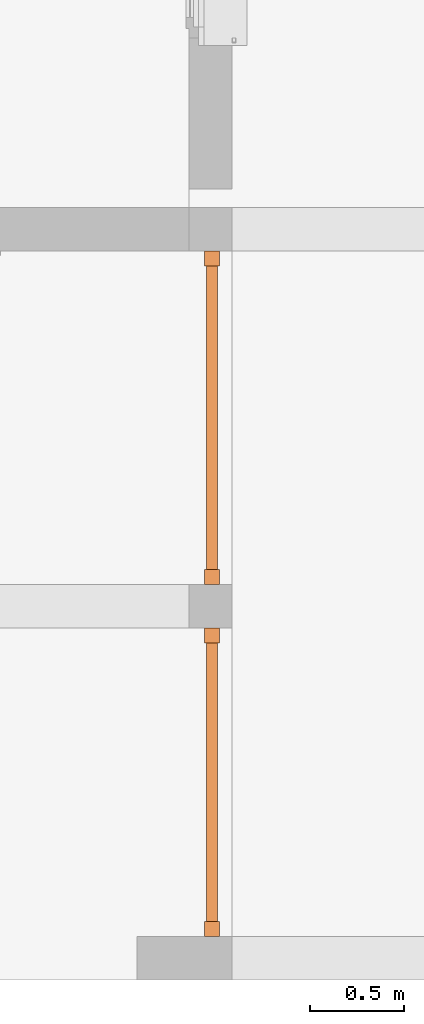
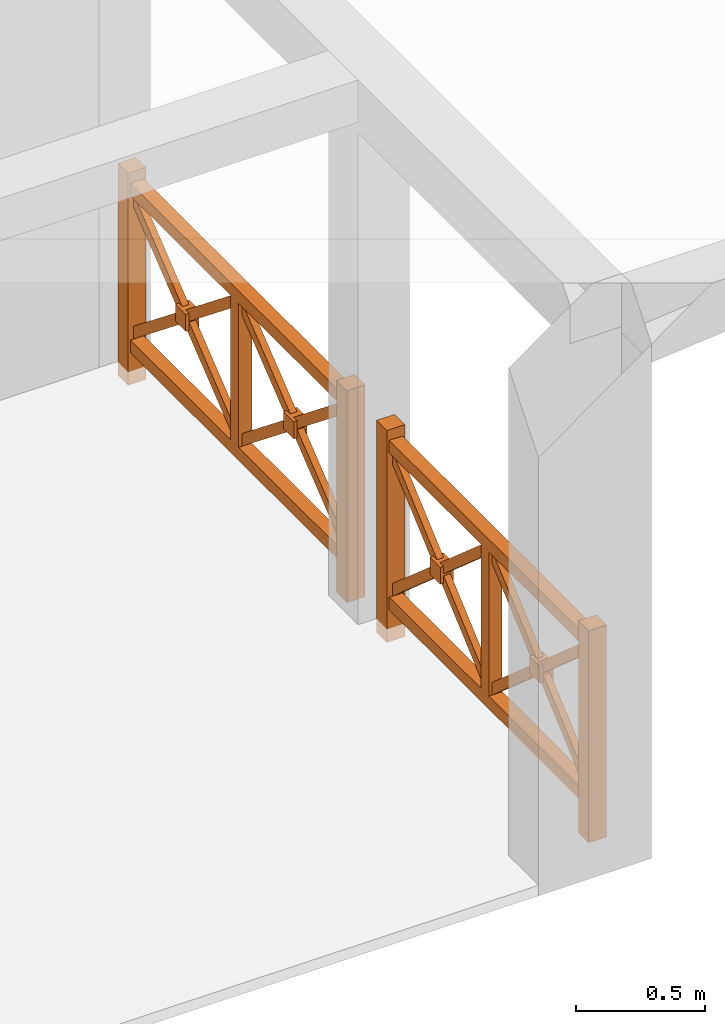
# One storey, part 11 of 13: 2 proxies.
"""IFC2X3 building model written with IfcOpenShell, lengths in metres."""

import ifcopenshell
import ifcopenshell.guid

model = None  # the IFC model being written
_history = None  # IfcOwnerHistory: only IFC2X3 demands one
_inside = {}  # id of a spatial element -> (the spatial element, [elements in it])
_under = {}  # id of a project, library or spatial element -> (it, [spatial elements below it])
_declared = {}  # id of a project -> (the project, [libraries it declares])
_typed = {}  # id of a type object -> (the type object, [elements of that type])
_made_of = {}  # id of a material, layer set ... -> (it, [elements and type objects made of it])


def new_model(schema):
    """Start an empty IFC model of exactly this schema.

    Asked for "IFC4X3", IfcOpenShell would pick the latest addendum, in which some entities
    have other attributes; the version numbers below select the first issue.
    IFC2X3 requires an IfcOwnerHistory on every rooted entity: one is made here for all.
    """
    global model, _history
    if schema == "IFC4X3":
        model = ifcopenshell.file(schema_version=(4, 3, 0, 0))
    else:
        model = ifcopenshell.file(schema=schema)
    _inside.clear()
    _under.clear()
    _declared.clear()
    _typed.clear()
    _made_of.clear()
    _history = None
    if model.schema == "IFC2X3":
        org = make("IfcOrganization", Name="unknown")
        user = make(
            "IfcPersonAndOrganization",
            ThePerson=make("IfcPerson", FamilyName="unknown"),
            TheOrganization=org,
        )
        app = make(
            "IfcApplication",
            ApplicationDeveloper=org,
            Version="unknown",
            ApplicationFullName="unknown",
            ApplicationIdentifier="unknown",
        )
        _history = make(
            "IfcOwnerHistory",
            OwningUser=user,
            OwningApplication=app,
            ChangeAction="ADDED",
            CreationDate=0,
        )
    return model


def make(cls, **values):
    """One entity of the class cls with the attributes given. An attribute that is None is left unset."""
    return model.create_entity(
        cls, **{name: value for name, value in values.items() if value is not None}
    )


def entity(cls, *values):
    """Any entity or typed value of the class cls, its attributes in the order of the schema. None: left unset."""
    e = model.create_entity(cls)
    for i, value in enumerate(values):
        if value is not None:
            e[i] = value
    return e


def rooted(cls, **values):
    """An entity with a GlobalId (a new one), such as an element, a storey or a relation."""
    return make(cls, GlobalId=ifcopenshell.guid.new(), OwnerHistory=_history, **values)


def si_unit(unit_type, name, prefix=None):
    """IfcSIUnit, for example si_unit("LENGTHUNIT", "METRE", prefix="MILLI")."""
    return make("IfcSIUnit", UnitType=unit_type, Prefix=prefix, Name=name)


def converted_unit(unit_type, name, factor, base, dimensions=None, offset=None):
    """IfcConversionBasedUnit, such as the inch: factor (a typed value) times the base unit."""
    return make(
        "IfcConversionBasedUnit"
        if offset is None
        else "IfcConversionBasedUnitWithOffset",
        ConversionOffset=offset,
        Dimensions=None
        if dimensions is None
        else entity("IfcDimensionalExponents", *dimensions),
        UnitType=unit_type,
        Name=name,
        ConversionFactor=make(
            "IfcMeasureWithUnit", ValueComponent=factor, UnitComponent=base
        ),
    )


def derived_unit(unit_type, elements):
    """IfcDerivedUnit: a product of units, each with its exponent."""
    return make(
        "IfcDerivedUnit",
        Elements=[
            make("IfcDerivedUnitElement", Unit=unit, Exponent=power)
            for unit, power in elements
        ],
        UnitType=unit_type,
    )


def money_unit(currency):
    """IfcMonetaryUnit."""
    return make("IfcMonetaryUnit", Currency=currency)


def assignment(units):
    """IfcUnitAssignment: the units of a project."""
    return None if units is None else make("IfcUnitAssignment", Units=units)


def point(xyz):
    """IfcCartesianPoint."""
    return None if xyz is None else make("IfcCartesianPoint", Coordinates=xyz)


def direction(xyz):
    """IfcDirection."""
    return None if xyz is None else make("IfcDirection", DirectionRatios=xyz)


def frame(location, z_axis=None, x_axis=None):
    """IfcAxis2Placement3D, a coordinate frame: its origin and axes. An axis left out is left unset."""
    return make(
        "IfcAxis2Placement3D",
        Location=point(location),
        Axis=direction(z_axis),
        RefDirection=direction(x_axis),
    )


def origin_with_axes():
    """The frame at (0, 0, 0) with the z axis (0, 0, 1) and the x axis (1, 0, 0) written out."""
    return frame((0.0, 0.0, 0.0), z_axis=(0.0, 0.0, 1.0), x_axis=(1.0, 0.0, 0.0))


def place(relative_to, where):
    """IfcLocalPlacement: puts the frame where relative to a parent placement (None: the world)."""
    return make(
        "IfcLocalPlacement", PlacementRelTo=relative_to, RelativePlacement=where
    )


def context(
    kind, dimensions, precision=None, world=None, true_north=None, identifier=None
):
    """IfcGeometricRepresentationContext, for example the 3D "Model" context."""
    return make(
        "IfcGeometricRepresentationContext",
        ContextIdentifier=identifier,
        ContextType=kind,
        CoordinateSpaceDimension=dimensions,
        Precision=precision,
        WorldCoordinateSystem=world,
        TrueNorth=true_north,
    )


def subcontext(parent, identifier, kind, view, scale=None):
    """IfcGeometricRepresentationSubContext, for example "Body" below "Model"."""
    return make(
        "IfcGeometricRepresentationSubContext",
        ContextIdentifier=identifier,
        ContextType=kind,
        ParentContext=parent,
        TargetScale=scale,
        TargetView=view,
    )


def project(units=None, contexts=None):
    """IfcProject with its units and contexts."""
    return rooted(
        "IfcProject",
        Name="project",
        RepresentationContexts=contexts,
        UnitsInContext=assignment(units),
    )


def spatial(cls, under=None, at=None, **own):
    """A site, building, storey or space (cls), placed at a placement, below another one or the project."""
    s = rooted(cls, ObjectPlacement=at, **own)
    if under is not None:
        _under.setdefault(under.id(), (under, []))[1].append(s)
    return s


def faces_of(points, faces, orient=None, outer=None):
    """IfcFace entities. A face is a list of loops; a loop is a list of indices into points, from 0.

    orient and outer hold one flag for each loop. By default every Orientation is true, the
    first loop of a face is its IfcFaceOuterBound and the others are IfcFaceBound.
    """
    made = []
    for i, loops in enumerate(faces):
        bounds = []
        for j, loop in enumerate(loops):
            is_outer = j == 0 if outer is None else outer[i][j]
            bounds.append(
                make(
                    "IfcFaceOuterBound" if is_outer else "IfcFaceBound",
                    Bound=make("IfcPolyLoop", Polygon=[points[k] for k in loop]),
                    Orientation=True if orient is None else orient[i][j],
                )
            )
        made.append(make("IfcFace", Bounds=bounds))
    return made


def faceted_brep(points, faces, orient=None, outer=None, voids=None):
    """IfcFacetedBrep: a solid bounded by flat faces; with voids (closed shells), ...WithVoids."""
    shared = [point(p) for p in points]
    hull = make("IfcClosedShell", CfsFaces=faces_of(shared, faces, orient, outer))
    if voids is None:
        return make("IfcFacetedBrep", Outer=hull)
    return make(
        "IfcFacetedBrepWithVoids",
        Outer=hull,
        Voids=[
            make(cls, CfsFaces=faces_of(shared, fs, o, b)) for cls, fs, o, b in voids
        ],
    )


def shape(context_of_items, identifier, shape_type, items):
    """IfcShapeRepresentation: the items that make up one representation, for example the "Body"."""
    return make(
        "IfcShapeRepresentation",
        ContextOfItems=context_of_items,
        RepresentationIdentifier=identifier,
        RepresentationType=shape_type,
        Items=items,
    )


def made_of(thing, what):
    """Note that an element or type object is made of a material, layer set ...; save() writes the relation."""
    if what is not None:
        _made_of.setdefault(what.id(), (what, []))[1].append(thing)
    return thing


def type_object(cls, material=None, **own):
    """A type object (cls), such as IfcWallType, which elements share."""
    return made_of(rooted(cls, **own), material)


def element(
    cls,
    number,
    at=None,
    inside=None,
    cuts=None,
    type_object=None,
    material=None,
    context=None,
    identifier="Body",
    shape_type=None,
    held_by="IfcProductDefinitionShape",
    body=None,
    shapes=None,
    **own,
):
    """One element of the class cls, such as IfcWall. Its Tag is "e" and its number.

    at: its placement. inside: the storey or other place that contains it. cuts: it is an
    opening in that element (IfcRelVoidsElement). A single representation is given by context,
    identifier, shape_type and body (its items); several are given by shapes. held_by: the class
    of the entity that holds the representations. save() writes the other relations.
    """
    e = rooted(cls, Tag="e%d" % number, ObjectPlacement=at, **own)
    if body is not None:
        shapes = [shape(context, identifier, shape_type, body)]
    if shapes is not None:
        e.Representation = make(held_by, Representations=shapes)
    if inside is not None:
        _inside.setdefault(inside.id(), (inside, []))[1].append(e)
    if cuts is not None:
        rooted(
            "IfcRelVoidsElement", RelatingBuildingElement=cuts, RelatedOpeningElement=e
        )
    if type_object is not None:
        _typed.setdefault(type_object.id(), (type_object, []))[1].append(e)
    return made_of(e, material)


def aggregate(whole, parts):
    """IfcRelAggregates: a whole, such as a stair, and the parts it consists of."""
    return rooted("IfcRelAggregates", RelatingObject=whole, RelatedObjects=parts)


def save(model, path):
    """Write the relations noted so far, then the file.

    IfcRelAggregates (storeys below a building ...), IfcRelContainedInSpatialStructure (elements
    in a storey), IfcRelDefinesByType, IfcRelAssociatesMaterial and IfcRelDeclares: one each for
    every whole, place, type object, material and project.
    """
    for whole, parts in _under.values():
        aggregate(whole, parts)
    for where, things in _inside.values():
        rooted(
            "IfcRelContainedInSpatialStructure",
            RelatedElements=things,
            RelatingStructure=where,
        )
    for kind, things in _typed.values():
        rooted("IfcRelDefinesByType", RelatedObjects=things, RelatingType=kind)
    for what, things in _made_of.values():
        rooted("IfcRelAssociatesMaterial", RelatedObjects=things, RelatingMaterial=what)
    for by, libraries in _declared.values():
        rooted("IfcRelDeclares", RelatingContext=by, RelatedDefinitions=libraries)
    model.write(path)


model = new_model("IFC2X3")

# Units and contexts
model_context = context("Model", 3, precision=1e-05, world=origin_with_axes(), true_north=direction((0.0, 1.0)))
body_context = subcontext(model_context, "Body", "Model", "MODEL_VIEW")
ifc_project = project(units=[si_unit("LENGTHUNIT", "METRE"), si_unit("AREAUNIT", "SQUARE_METRE"), si_unit("VOLUMEUNIT", "CUBIC_METRE"), converted_unit("PLANEANGLEUNIT", "DEGREE", entity("IfcPlaneAngleMeasure", 0.0174532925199), si_unit("PLANEANGLEUNIT", "RADIAN"), dimensions=[0, 0, 0, 0, 0, 0, 0]), si_unit("SOLIDANGLEUNIT", "STERADIAN"), money_unit("CHF"), converted_unit("TIMEUNIT", "Year", entity("IfcTimeMeasure", 31556926.0), si_unit("TIMEUNIT", "SECOND"), dimensions=[0, 0, 1, 0, 0, 0, 0]), si_unit("MASSUNIT", "GRAM", prefix="KILO"), si_unit("THERMODYNAMICTEMPERATUREUNIT", "DEGREE_CELSIUS"), si_unit("LUMINOUSINTENSITYUNIT", "LUMEN"), si_unit("ENERGYUNIT", "JOULE", prefix="MEGA"), derived_unit("THERMALCONDUCTANCEUNIT", [(si_unit("POWERUNIT", "WATT"), 1), (si_unit("LENGTHUNIT", "METRE"), -1), (si_unit("THERMODYNAMICTEMPERATUREUNIT", "KELVIN"), -1)]), derived_unit("SPECIFICHEATCAPACITYUNIT", [(si_unit("ENERGYUNIT", "JOULE"), 1), (si_unit("MASSUNIT", "GRAM", prefix="KILO"), -1), (si_unit("THERMODYNAMICTEMPERATUREUNIT", "KELVIN"), -1)]), derived_unit("MASSDENSITYUNIT", [(si_unit("MASSUNIT", "GRAM", prefix="KILO"), 1), (si_unit("VOLUMEUNIT", "CUBIC_METRE"), -1)])], contexts=[model_context])

# Site, building, storey
site_placement = place(None, origin_with_axes())
site = spatial("IfcSite", under=ifc_project, at=site_placement, Name="Site", CompositionType="ELEMENT")
building_placement = place(site_placement, origin_with_axes())
building = spatial("IfcBuilding", under=site, at=building_placement, Name="Bâtiment", CompositionType="ELEMENT")
storey_placement = place(building_placement, origin_with_axes())
storey = spatial("IfcBuildingStorey", under=building, at=storey_placement, Name="SOUS-SOL", CompositionType="ELEMENT", Elevation=0.0)

# Proxies
building_element_proxy_type = type_object("IfcBuildingElementProxyType", PredefinedType="NOTDEFINED")
proxy_1_placement = place(storey_placement, frame((94.8584628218, 8.22980383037, -2.82435482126), z_axis=(0.0, 0.0, 1.0), x_axis=(0.0, 1.0, 0.0)))
element("IfcBuildingElementProxy", 1, at=proxy_1_placement, inside=storey, type_object=building_element_proxy_type, Name="MOB-1224", context=body_context, shape_type="Brep", body=[
    faceted_brep([(0.739462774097, -0.04, 0.0), (0.739462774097, 0.04, 0.0), (0.819462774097, 0.04, 0.0), (0.819462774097, -0.04, 0.0), (0.739462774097, -0.04, 1.0), (0.739462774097, 0.04, 1.0), (0.819462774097, 0.04, 1.0), (0.819462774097, -0.04, 1.0)], [[[0, 1, 2, 3]], [[0, 4, 5, 1]], [[1, 5, 6, 2]], [[2, 6, 7, 3]], [[3, 7, 4, 0]], [[7, 6, 5, 4]]]),
    faceted_brep([(-0.819462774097, -0.04, 0.0), (-0.819462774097, 0.04, 0.0), (-0.739462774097, 0.04, 0.0), (-0.739462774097, -0.04, 0.0), (-0.819462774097, -0.04, 1.0), (-0.819462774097, 0.04, 1.0), (-0.739462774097, 0.04, 1.0), (-0.739462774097, -0.04, 1.0)], [[[0, 1, 2, 3]], [[0, 4, 5, 1]], [[1, 5, 6, 2]], [[2, 6, 7, 3]], [[3, 7, 4, 0]], [[7, 6, 5, 4]]]),
    faceted_brep([(-0.03, -0.03, 0.21), (-0.03, 0.03, 0.21), (0.03, 0.03, 0.21), (0.03, -0.03, 0.21), (-0.03, -0.03, 0.89), (-0.03, 0.03, 0.89), (0.03, 0.03, 0.89), (0.03, -0.03, 0.89)], [[[0, 1, 2, 3]], [[0, 4, 5, 1]], [[1, 5, 6, 2]], [[2, 6, 7, 3]], [[3, 7, 4, 0]], [[7, 6, 5, 4]]]),
    faceted_brep([(-0.739462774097, -0.03, 0.89), (-0.739462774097, 0.03, 0.89), (0.739462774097, 0.03, 0.89), (0.739462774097, -0.03, 0.89), (-0.739462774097, -0.03, 0.95), (-0.739462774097, 0.03, 0.95), (0.739462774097, 0.03, 0.95), (0.739462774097, -0.03, 0.95)], [[[0, 1, 2, 3]], [[0, 4, 5, 1]], [[1, 5, 6, 2]], [[2, 6, 7, 3]], [[3, 7, 4, 0]], [[7, 6, 5, 4]]]),
    faceted_brep([(-0.739462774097, -0.03, 0.15), (-0.739462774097, 0.03, 0.15), (0.739462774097, 0.03, 0.15), (0.739462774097, -0.03, 0.15), (-0.739462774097, -0.03, 0.21), (-0.739462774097, 0.03, 0.21), (0.739462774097, 0.03, 0.21), (0.739462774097, -0.03, 0.21)], [[[0, 1, 2, 3]], [[0, 4, 5, 1]], [[1, 5, 6, 2]], [[2, 6, 7, 3]], [[3, 7, 4, 0]], [[7, 6, 5, 4]]]),
    faceted_brep([(0.739462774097, 0.015, 0.21), (0.739462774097, -0.015, 0.21), (0.03, -0.015, 0.83), (0.03, 0.015, 0.83), (0.739462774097, 0.015, 0.27), (0.739462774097, -0.015, 0.27), (0.03, -0.015, 0.89), (0.03, 0.015, 0.89)], [[[0, 1, 2, 3]], [[4, 5, 1, 0]], [[1, 5, 6, 2]], [[3, 2, 6, 7]], [[0, 3, 7, 4]], [[7, 6, 5, 4]]]),
    faceted_brep([(0.739462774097, 0.015, 0.89), (0.739462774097, -0.015, 0.89), (0.739462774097, -0.015, 0.83), (0.739462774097, 0.015, 0.83), (0.03, 0.015, 0.27), (0.03, -0.015, 0.27), (0.03, -0.015, 0.21), (0.03, 0.015, 0.21)], [[[0, 1, 2, 3]], [[4, 5, 1, 0]], [[1, 5, 6, 2]], [[3, 2, 6, 7]], [[0, 3, 7, 4]], [[7, 6, 5, 4]]]),
    faceted_brep([(0.344731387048, -0.03, 0.51), (0.344731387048, 0.03, 0.51), (0.424731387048, 0.03, 0.51), (0.424731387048, -0.03, 0.51), (0.344731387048, -0.03, 0.59), (0.344731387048, 0.03, 0.59), (0.424731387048, 0.03, 0.59), (0.424731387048, -0.03, 0.59)], [[[0, 1, 2, 3]], [[0, 4, 5, 1]], [[1, 5, 6, 2]], [[2, 6, 7, 3]], [[3, 7, 4, 0]], [[7, 6, 5, 4]]]),
    faceted_brep([(-0.03, 0.015, 0.21), (-0.03, -0.015, 0.21), (-0.739462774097, -0.015, 0.83), (-0.739462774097, 0.015, 0.83), (-0.03, 0.015, 0.27), (-0.03, -0.015, 0.27), (-0.739462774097, -0.015, 0.89), (-0.739462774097, 0.015, 0.89)], [[[0, 1, 2, 3]], [[4, 5, 1, 0]], [[1, 5, 6, 2]], [[3, 2, 6, 7]], [[0, 3, 7, 4]], [[7, 6, 5, 4]]]),
    faceted_brep([(-0.03, 0.015, 0.89), (-0.03, -0.015, 0.89), (-0.03, -0.015, 0.83), (-0.03, 0.015, 0.83), (-0.739462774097, 0.015, 0.27), (-0.739462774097, -0.015, 0.27), (-0.739462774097, -0.015, 0.21), (-0.739462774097, 0.015, 0.21)], [[[0, 1, 2, 3]], [[4, 5, 1, 0]], [[1, 5, 6, 2]], [[3, 2, 6, 7]], [[0, 3, 7, 4]], [[7, 6, 5, 4]]]),
    faceted_brep([(-0.424731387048, -0.03, 0.51), (-0.424731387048, 0.03, 0.51), (-0.344731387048, 0.03, 0.51), (-0.344731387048, -0.03, 0.51), (-0.424731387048, -0.03, 0.59), (-0.424731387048, 0.03, 0.59), (-0.344731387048, 0.03, 0.59), (-0.344731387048, -0.03, 0.59)], [[[0, 1, 2, 3]], [[0, 4, 5, 1]], [[1, 5, 6, 2]], [[2, 6, 7, 3]], [[3, 7, 4, 0]], [[7, 6, 5, 4]]]),
])
proxy_2_placement = place(storey_placement, frame((94.8584628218, 10.1648038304, -2.82435482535), z_axis=(0.0, 0.0, 1.0), x_axis=(0.0, 1.0, 0.0)))
element("IfcBuildingElementProxy", 2, at=proxy_2_placement, inside=storey, type_object=building_element_proxy_type, Name="MOB-1224", context=body_context, shape_type="Brep", body=[
    faceted_brep([(0.805537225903, -0.04, 0.0), (0.805537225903, 0.04, 0.0), (0.885537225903, 0.04, 0.0), (0.885537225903, -0.04, 0.0), (0.805537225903, -0.04, 1.0), (0.805537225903, 0.04, 1.0), (0.885537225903, 0.04, 1.0), (0.885537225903, -0.04, 1.0)], [[[0, 1, 2, 3]], [[0, 4, 5, 1]], [[1, 5, 6, 2]], [[2, 6, 7, 3]], [[3, 7, 4, 0]], [[7, 6, 5, 4]]]),
    faceted_brep([(-0.885537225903, -0.04, 0.0), (-0.885537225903, 0.04, 0.0), (-0.805537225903, 0.04, 0.0), (-0.805537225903, -0.04, 0.0), (-0.885537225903, -0.04, 1.0), (-0.885537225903, 0.04, 1.0), (-0.805537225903, 0.04, 1.0), (-0.805537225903, -0.04, 1.0)], [[[0, 1, 2, 3]], [[0, 4, 5, 1]], [[1, 5, 6, 2]], [[2, 6, 7, 3]], [[3, 7, 4, 0]], [[7, 6, 5, 4]]]),
    faceted_brep([(-0.03, -0.03, 0.21), (-0.03, 0.03, 0.21), (0.03, 0.03, 0.21), (0.03, -0.03, 0.21), (-0.03, -0.03, 0.89), (-0.03, 0.03, 0.89), (0.03, 0.03, 0.89), (0.03, -0.03, 0.89)], [[[0, 1, 2, 3]], [[0, 4, 5, 1]], [[1, 5, 6, 2]], [[2, 6, 7, 3]], [[3, 7, 4, 0]], [[7, 6, 5, 4]]]),
    faceted_brep([(-0.805537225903, -0.03, 0.89), (-0.805537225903, 0.03, 0.89), (0.805537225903, 0.03, 0.89), (0.805537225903, -0.03, 0.89), (-0.805537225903, -0.03, 0.95), (-0.805537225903, 0.03, 0.95), (0.805537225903, 0.03, 0.95), (0.805537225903, -0.03, 0.95)], [[[0, 1, 2, 3]], [[0, 4, 5, 1]], [[1, 5, 6, 2]], [[2, 6, 7, 3]], [[3, 7, 4, 0]], [[7, 6, 5, 4]]]),
    faceted_brep([(-0.805537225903, -0.03, 0.15), (-0.805537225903, 0.03, 0.15), (0.805537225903, 0.03, 0.15), (0.805537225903, -0.03, 0.15), (-0.805537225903, -0.03, 0.21), (-0.805537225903, 0.03, 0.21), (0.805537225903, 0.03, 0.21), (0.805537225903, -0.03, 0.21)], [[[0, 1, 2, 3]], [[0, 4, 5, 1]], [[1, 5, 6, 2]], [[2, 6, 7, 3]], [[3, 7, 4, 0]], [[7, 6, 5, 4]]]),
    faceted_brep([(0.805537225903, 0.015, 0.21), (0.805537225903, -0.015, 0.21), (0.03, -0.015, 0.83), (0.03, 0.015, 0.83), (0.805537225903, 0.015, 0.27), (0.805537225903, -0.015, 0.27), (0.03, -0.015, 0.89), (0.03, 0.015, 0.89)], [[[0, 1, 2, 3]], [[4, 5, 1, 0]], [[1, 5, 6, 2]], [[3, 2, 6, 7]], [[0, 3, 7, 4]], [[7, 6, 5, 4]]]),
    faceted_brep([(0.805537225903, 0.015, 0.89), (0.805537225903, -0.015, 0.89), (0.805537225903, -0.015, 0.83), (0.805537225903, 0.015, 0.83), (0.03, 0.015, 0.27), (0.03, -0.015, 0.27), (0.03, -0.015, 0.21), (0.03, 0.015, 0.21)], [[[0, 1, 2, 3]], [[4, 5, 1, 0]], [[1, 5, 6, 2]], [[3, 2, 6, 7]], [[0, 3, 7, 4]], [[7, 6, 5, 4]]]),
    faceted_brep([(0.377768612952, -0.03, 0.51), (0.377768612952, 0.03, 0.51), (0.457768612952, 0.03, 0.51), (0.457768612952, -0.03, 0.51), (0.377768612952, -0.03, 0.59), (0.377768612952, 0.03, 0.59), (0.457768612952, 0.03, 0.59), (0.457768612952, -0.03, 0.59)], [[[0, 1, 2, 3]], [[0, 4, 5, 1]], [[1, 5, 6, 2]], [[2, 6, 7, 3]], [[3, 7, 4, 0]], [[7, 6, 5, 4]]]),
    faceted_brep([(-0.03, 0.015, 0.21), (-0.03, -0.015, 0.21), (-0.805537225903, -0.015, 0.83), (-0.805537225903, 0.015, 0.83), (-0.03, 0.015, 0.27), (-0.03, -0.015, 0.27), (-0.805537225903, -0.015, 0.89), (-0.805537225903, 0.015, 0.89)], [[[0, 1, 2, 3]], [[4, 5, 1, 0]], [[1, 5, 6, 2]], [[3, 2, 6, 7]], [[0, 3, 7, 4]], [[7, 6, 5, 4]]]),
    faceted_brep([(-0.03, 0.015, 0.89), (-0.03, -0.015, 0.89), (-0.03, -0.015, 0.83), (-0.03, 0.015, 0.83), (-0.805537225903, 0.015, 0.27), (-0.805537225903, -0.015, 0.27), (-0.805537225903, -0.015, 0.21), (-0.805537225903, 0.015, 0.21)], [[[0, 1, 2, 3]], [[4, 5, 1, 0]], [[1, 5, 6, 2]], [[3, 2, 6, 7]], [[0, 3, 7, 4]], [[7, 6, 5, 4]]]),
    faceted_brep([(-0.457768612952, -0.03, 0.51), (-0.457768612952, 0.03, 0.51), (-0.377768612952, 0.03, 0.51), (-0.377768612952, -0.03, 0.51), (-0.457768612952, -0.03, 0.59), (-0.457768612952, 0.03, 0.59), (-0.377768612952, 0.03, 0.59), (-0.377768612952, -0.03, 0.59)], [[[0, 1, 2, 3]], [[0, 4, 5, 1]], [[1, 5, 6, 2]], [[2, 6, 7, 3]], [[3, 7, 4, 0]], [[7, 6, 5, 4]]]),
])

save(model, "model.ifc")
